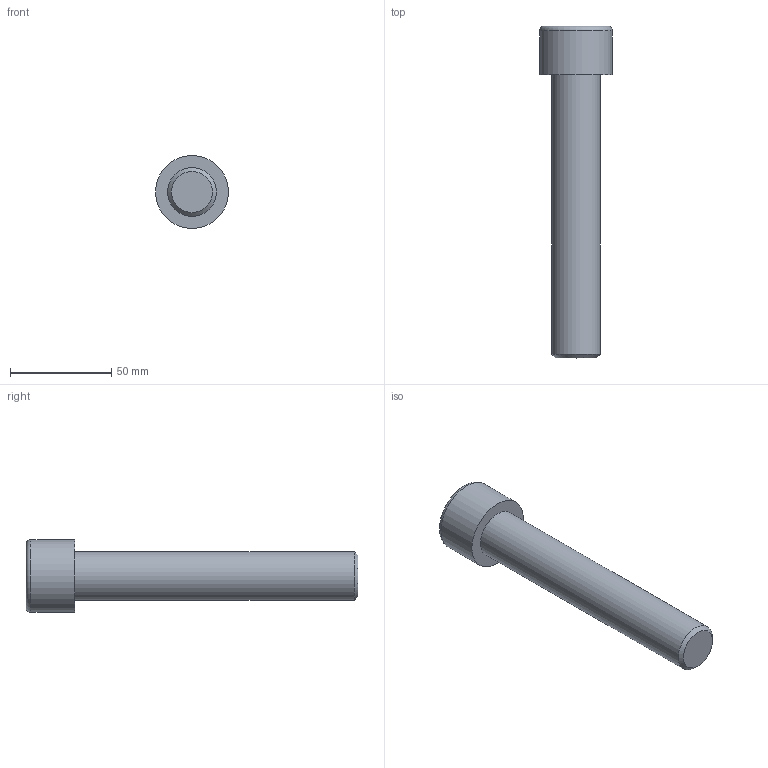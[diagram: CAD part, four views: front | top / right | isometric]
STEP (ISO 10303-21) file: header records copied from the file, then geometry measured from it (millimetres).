
FILE_DESCRIPTION(/* description */ (''),/* implementation_level */ '2;1');
FILE_NAME(/* name */ 'C:\Users\D\Documents\Inventor\各種小物\JIS\JIS B 1176 六角穴付きボルト\M24x140.stp',/* time_stamp */ '2022-05-09T18:59:46+09:00',/* author */ ('D'),/* organization */ (''),/* preprocessor_version */ 'ST-DEVELOPER v18',/* originating_system */ 'Autodesk Inventor 2020',/* authorisation */ '');
FILE_SCHEMA (('AUTOMOTIVE_DESIGN { 1 0 10303 214 3 1 1 }'));
Length unit declared in the file: millimetre
Products named in the file (1): M1.6x2.5
Bounding box: 36 x 164 x 36 mm (x, y, z)
Volume: 82979 mm3; surface area: 15976 mm2
Topology: 1 solids, 1 shells, 14 faces, 33 edges, 22 vertices
Faces by surface type: plane 9, cone 2, cylinder 2, torus 1
Full cylindrical faces by diameter (mm): 24 x1, 36 x1
Entity records: 435 total; most frequent: CARTESIAN_POINT 83, ORIENTED_EDGE 64, DIRECTION 64, EDGE_CURVE 32, AXIS2_PLACEMENT_3D 24, VERTEX_POINT 22, EDGE_LOOP 16, LINE 16
